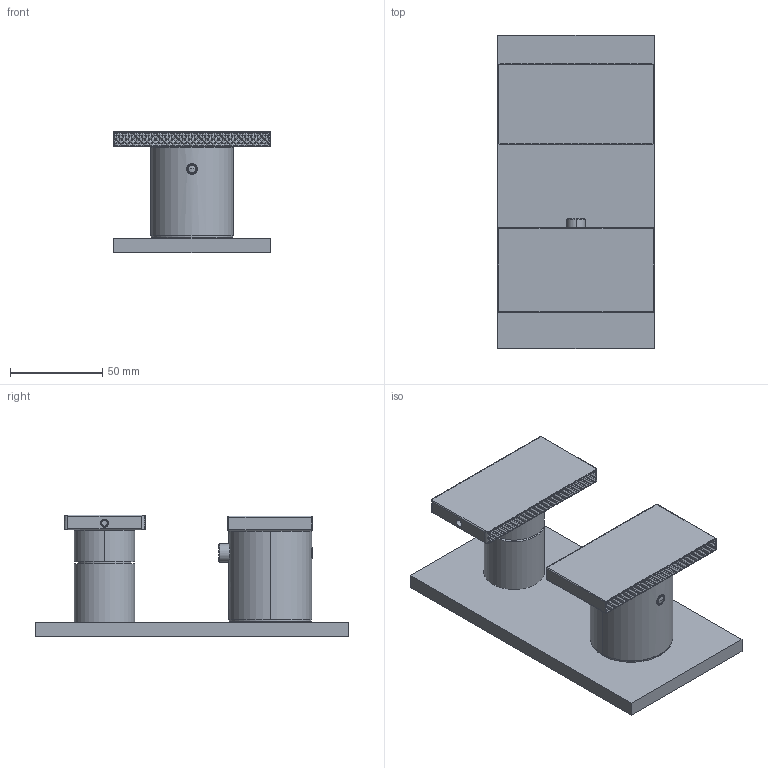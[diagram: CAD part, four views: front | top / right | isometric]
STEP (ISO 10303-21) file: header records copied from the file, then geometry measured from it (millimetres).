
FILE_DESCRIPTION(('STEP AP214'),'2;1');
FILE_NAME('DIS_3D_P743B+M623A.stp','2025-02-18T15:15:56',(''),(''),'2015.2.119','THINKDESIGN','');
FILE_SCHEMA(('AUTOMOTIVE_DESIGN'));
Length unit declared in the file: millimetre
Products named in the file (2): 040072083aix0000; top
Assembly tree (1 placements, depth 2):
  top
    040072083aix0000
Bounding box: 85 x 170 x 66.14 mm (x, y, z)
Volume: 296596.4 mm3; surface area: 75700.2 mm2
Topology: 11 solids, 11 shells, 3854 faces, 7783 edges, 3964 vertices
Faces by surface type: plane 3237, cylinder 538, bspline 79
Full cylindrical faces by diameter (mm): 30.922 x1, 33 x1
Entity records: 170818 total; most frequent: CARTESIAN_POINT 25895, ORIENTED_EDGE 15558, DIRECTION 14490, EDGE_CURVE 7779, STYLED_ITEM 7719, PRESENTATION_STYLE_ASSIGNMENT 7711, SURFACE_STYLE_USAGE 7711, SURFACE_SIDE_STYLE 7711
